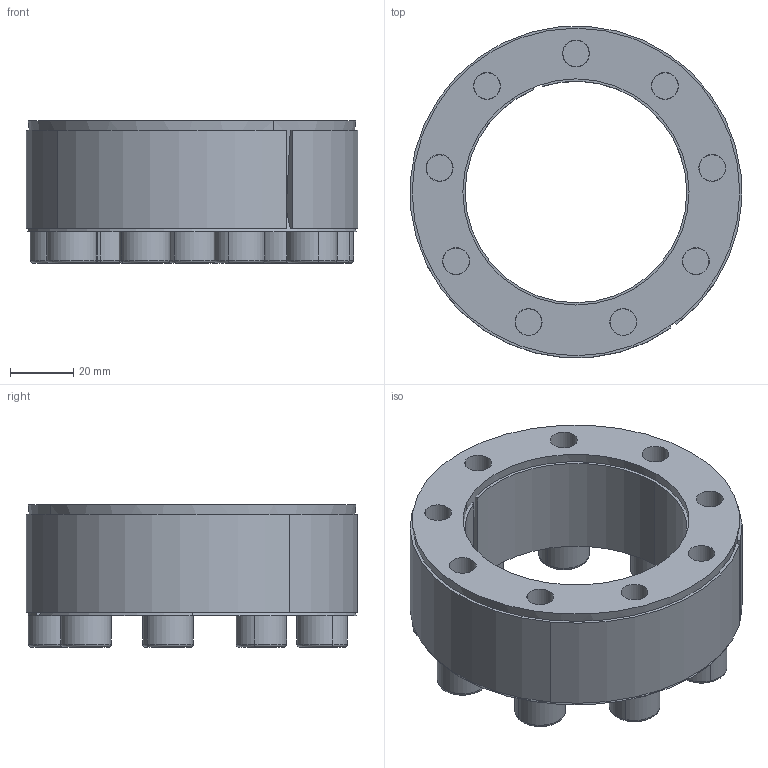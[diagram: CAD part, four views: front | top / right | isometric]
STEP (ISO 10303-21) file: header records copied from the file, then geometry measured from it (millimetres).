
FILE_DESCRIPTION (( 'STEP AP214' ), '1' );
FILE_NAME ('CONEX-L-70x105.step', '2013-04-06T13:23:18', ( 'Pc' ), ( '' ), 'SwSTEP 2.0', 'SolidWorks 2013', '' );
FILE_SCHEMA (( 'AUTOMOTIVE_DESIGN' ));
Length unit declared in the file: millimetre
Products named in the file (1): CONEX-L-70x105
Bounding box: 104.73 x 104.66 x 45.03 mm (x, y, z)
Volume: 161364.7 mm3; surface area: 85045.7 mm2
Topology: 12 solids, 12 shells, 318 faces, 727 edges, 433 vertices
Faces by surface type: plane 146, cylinder 84, cone 52, torus 36
Entity records: 12538 total; most frequent: DIRECTION 1680, CARTESIAN_POINT 1494, ORIENTED_EDGE 1418, EDGE_CURVE 709, AXIS2_PLACEMENT_3D 660, VERTEX_POINT 433, EDGE_LOOP 380, VECTOR 360
